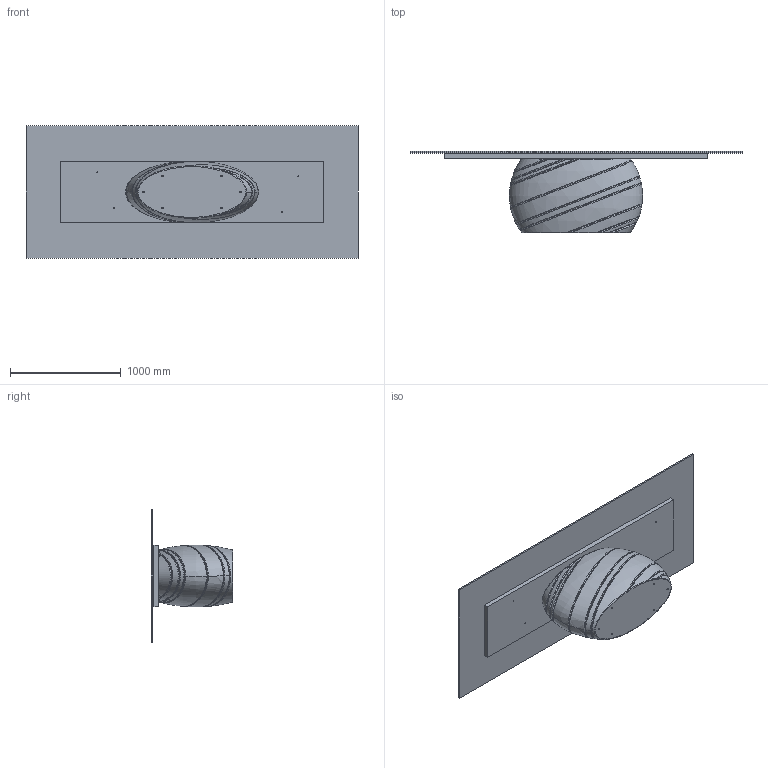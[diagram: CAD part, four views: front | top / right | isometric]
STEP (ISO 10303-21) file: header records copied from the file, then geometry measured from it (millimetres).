
FILE_DESCRIPTION (( 'STEP AP203' ), '1' );
FILE_NAME ('GI24G.STEP', '2025-04-22T14:18:35', ( '' ), ( '' ), 'SwSTEP 2.0', 'SolidWorks 2022', '' );
FILE_SCHEMA (( 'CONFIG_CONTROL_DESIGN' ));
Length unit declared in the file: millimetre
Products named in the file (3): PIANI_modello 3D x web_Cristallo 300x120; GI24G; GIB000xxx-00-BASE GIOVE X 300
Assembly tree (2 placements, depth 2):
  GI24G
    PIANI_modello 3D x web_Cristallo 300x120
    GIB000xxx-00-BASE GIOVE X 300
Bounding box: 3000 x 737 x 1200 mm (x, y, z)
Volume: 423807146.4 mm3; surface area: 12990502.2 mm2
Topology: 3 solids, 3 shells, 148 faces, 357 edges, 230 vertices
Faces by surface type: bspline 53, cylinder 36, plane 35, cone 24
Entity records: 36946 total; most frequent: CARTESIAN_POINT 33563, ORIENTED_EDGE 714, DIRECTION 512, EDGE_CURVE 357, VERTEX_POINT 230, AXIS2_PLACEMENT_3D 208, EDGE_LOOP 175, B_SPLINE_CURVE_WITH_KNOTS 153
